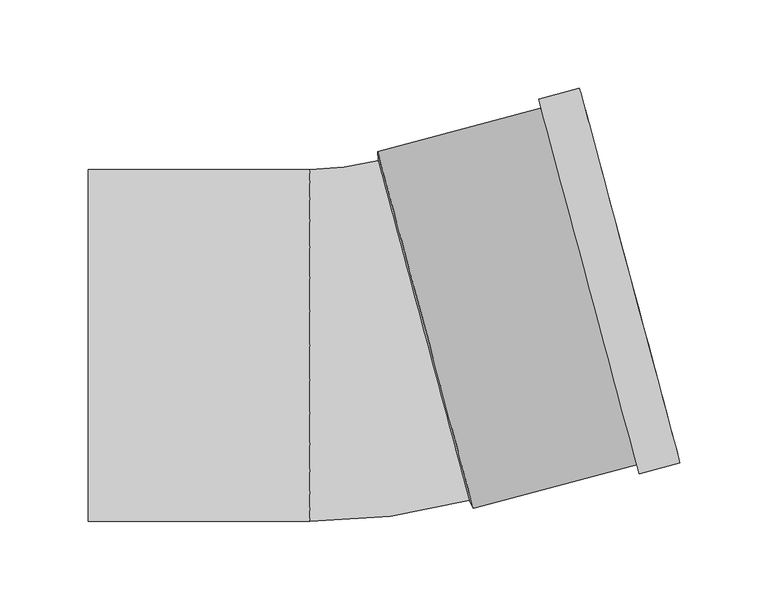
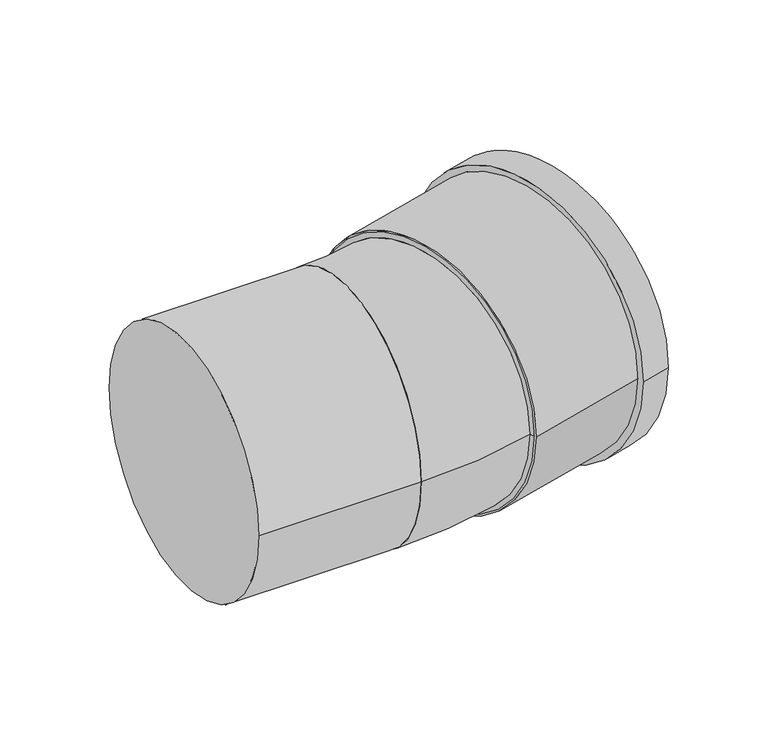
"""IFC4 building model written with IfcOpenShell, lengths in millimetres: pipe fitting geometry, Superdrain SKB Bend : Superdrain SKB Bend."""

import ifcopenshell
import ifcopenshell.guid

model = None  # the IFC model being written
_history = None  # IfcOwnerHistory: only IFC2X3 demands one
_inside = {}  # id of a spatial element -> (the spatial element, [elements in it])
_under = {}  # id of a project, library or spatial element -> (it, [spatial elements below it])
_declared = {}  # id of a project -> (the project, [libraries it declares])
_typed = {}  # id of a type object -> (the type object, [elements of that type])
_made_of = {}  # id of a material, layer set ... -> (it, [elements and type objects made of it])


def new_model(schema):
    """Start an empty IFC model of exactly this schema.

    Asked for "IFC4X3", IfcOpenShell would pick the latest addendum, in which some entities
    have other attributes; the version numbers below select the first issue.
    IFC2X3 requires an IfcOwnerHistory on every rooted entity: one is made here for all.
    """
    global model, _history
    if schema == "IFC4X3":
        model = ifcopenshell.file(schema_version=(4, 3, 0, 0))
    else:
        model = ifcopenshell.file(schema=schema)
    _inside.clear()
    _under.clear()
    _declared.clear()
    _typed.clear()
    _made_of.clear()
    _history = None
    if model.schema == "IFC2X3":
        org = make("IfcOrganization", Name="unknown")
        user = make(
            "IfcPersonAndOrganization",
            ThePerson=make("IfcPerson", FamilyName="unknown"),
            TheOrganization=org,
        )
        app = make(
            "IfcApplication",
            ApplicationDeveloper=org,
            Version="unknown",
            ApplicationFullName="unknown",
            ApplicationIdentifier="unknown",
        )
        _history = make(
            "IfcOwnerHistory",
            OwningUser=user,
            OwningApplication=app,
            ChangeAction="ADDED",
            CreationDate=0,
        )
    return model


def make(cls, **values):
    """One entity of the class cls with the attributes given. An attribute that is None is left unset."""
    return model.create_entity(
        cls, **{name: value for name, value in values.items() if value is not None}
    )


def rooted(cls, **values):
    """An entity with a GlobalId (a new one), such as an element, a storey or a relation."""
    return make(cls, GlobalId=ifcopenshell.guid.new(), OwnerHistory=_history, **values)


def si_unit(unit_type, name, prefix=None):
    """IfcSIUnit, for example si_unit("LENGTHUNIT", "METRE", prefix="MILLI")."""
    return make("IfcSIUnit", UnitType=unit_type, Prefix=prefix, Name=name)


def assignment(units):
    """IfcUnitAssignment: the units of a project."""
    return None if units is None else make("IfcUnitAssignment", Units=units)


def point(xyz):
    """IfcCartesianPoint."""
    return None if xyz is None else make("IfcCartesianPoint", Coordinates=xyz)


def direction(xyz):
    """IfcDirection."""
    return None if xyz is None else make("IfcDirection", DirectionRatios=xyz)


def frame(location, z_axis=None, x_axis=None):
    """IfcAxis2Placement3D, a coordinate frame: its origin and axes. An axis left out is left unset."""
    return make(
        "IfcAxis2Placement3D",
        Location=point(location),
        Axis=direction(z_axis),
        RefDirection=direction(x_axis),
    )


def frame_2d(location, x_axis=None):
    """IfcAxis2Placement2D, a coordinate frame in the plane: its origin and x axis."""
    return make(
        "IfcAxis2Placement2D", Location=point(location), RefDirection=direction(x_axis)
    )


def origin():
    """The frame at (0, 0, 0) with its axes left unset."""
    return frame((0.0, 0.0, 0.0))


def origin_2d():
    """The frame at (0, 0) in the plane with its x axis left unset."""
    return frame_2d((0.0, 0.0))


def place(relative_to, where):
    """IfcLocalPlacement: puts the frame where relative to a parent placement (None: the world)."""
    return make(
        "IfcLocalPlacement", PlacementRelTo=relative_to, RelativePlacement=where
    )


def context(
    kind, dimensions, precision=None, world=None, true_north=None, identifier=None
):
    """IfcGeometricRepresentationContext, for example the 3D "Model" context."""
    return make(
        "IfcGeometricRepresentationContext",
        ContextIdentifier=identifier,
        ContextType=kind,
        CoordinateSpaceDimension=dimensions,
        Precision=precision,
        WorldCoordinateSystem=world,
        TrueNorth=true_north,
    )


def project(units=None, contexts=None):
    """IfcProject with its units and contexts."""
    return rooted(
        "IfcProject",
        Name="project",
        RepresentationContexts=contexts,
        UnitsInContext=assignment(units),
    )


def spatial(cls, under=None, at=None, **own):
    """A site, building, storey or space (cls), placed at a placement, below another one or the project."""
    s = rooted(cls, ObjectPlacement=at, **own)
    if under is not None:
        _under.setdefault(under.id(), (under, []))[1].append(s)
    return s


def polyline(points):
    """IfcPolyline through the points."""
    return make("IfcPolyline", Points=[point(p) for p in points])


def circle_curve(where, radius):
    """IfcCircle in the frame where."""
    return make("IfcCircle", Position=where, Radius=radius)


def ellipse_curve(where, semi_axis1, semi_axis2):
    """IfcEllipse in the frame where."""
    return make(
        "IfcEllipse", Position=where, SemiAxis1=semi_axis1, SemiAxis2=semi_axis2
    )


def trimmed(basis, trim1, trim2, sense, master):
    """IfcTrimmedCurve: the piece of a basis curve between two trims."""
    return make(
        "IfcTrimmedCurve",
        BasisCurve=basis,
        Trim1=trim1,
        Trim2=trim2,
        SenseAgreement=sense,
        MasterRepresentation=master,
    )


def segment(curve, same_sense, transition):
    """IfcCompositeCurveSegment."""
    return make(
        "IfcCompositeCurveSegment",
        Transition=transition,
        SameSense=same_sense,
        ParentCurve=curve,
    )


def composite_curve(segments, self_intersect=None):
    """IfcCompositeCurve: segments joined end to end."""
    return make("IfcCompositeCurve", Segments=segments, SelfIntersect=self_intersect)


def outline(outer, holes=None, kind="AREA"):
    """IfcArbitraryClosedProfileDef: a profile drawn as a closed curve; with holes, ...WithVoids."""
    if holes is None:
        return make("IfcArbitraryClosedProfileDef", ProfileType=kind, OuterCurve=outer)
    return make(
        "IfcArbitraryProfileDefWithVoids",
        ProfileType=kind,
        OuterCurve=outer,
        InnerCurves=holes,
    )


def extrude(swept, where, along, depth):
    """IfcExtrudedAreaSolid: the profile swept, set in the frame where, extruded along a direction by depth."""
    return make(
        "IfcExtrudedAreaSolid",
        SweptArea=swept,
        Position=where,
        ExtrudedDirection=direction(along),
        Depth=depth,
    )


def shape(context_of_items, identifier, shape_type, items):
    """IfcShapeRepresentation: the items that make up one representation, for example the "Body"."""
    return make(
        "IfcShapeRepresentation",
        ContextOfItems=context_of_items,
        RepresentationIdentifier=identifier,
        RepresentationType=shape_type,
        Items=items,
    )


def source(mapping_origin, context_of_items, identifier, shape_type, items):
    """IfcRepresentationMap: a shape defined once, which mapped items show again and again."""
    return make(
        "IfcRepresentationMap",
        MappingOrigin=mapping_origin,
        MappedRepresentation=shape(context_of_items, identifier, shape_type, items),
    )


def transform(
    local_origin,
    x_axis=None,
    y_axis=None,
    z_axis=None,
    scale=None,
    scale2=None,
    scale3=None,
    uniform=True,
):
    """IfcCartesianTransformationOperator3D, or its non-uniform kind. x_axis, y_axis, z_axis: its Axis1, 2, 3."""
    if uniform:
        return make(
            "IfcCartesianTransformationOperator3D",
            Axis1=direction(x_axis),
            Axis2=direction(y_axis),
            LocalOrigin=point(local_origin),
            Scale=scale,
            Axis3=direction(z_axis),
        )
    return make(
        "IfcCartesianTransformationOperator3DnonUniform",
        Axis1=direction(x_axis),
        Axis2=direction(y_axis),
        LocalOrigin=point(local_origin),
        Scale=scale,
        Axis3=direction(z_axis),
        Scale2=scale2,
        Scale3=scale3,
    )


def mapped(mapping_source, mapping_target):
    """IfcMappedItem: shows the shape of a source again, moved by a transform."""
    return make(
        "IfcMappedItem", MappingSource=mapping_source, MappingTarget=mapping_target
    )


def made_of(thing, what):
    """Note that an element or type object is made of a material, layer set ...; save() writes the relation."""
    if what is not None:
        _made_of.setdefault(what.id(), (what, []))[1].append(thing)
    return thing


def element(
    cls,
    number,
    at=None,
    inside=None,
    cuts=None,
    type_object=None,
    material=None,
    context=None,
    identifier="Body",
    shape_type=None,
    held_by="IfcProductDefinitionShape",
    body=None,
    shapes=None,
    **own,
):
    """One element of the class cls, such as IfcWall. Its Tag is "e" and its number.

    at: its placement. inside: the storey or other place that contains it. cuts: it is an
    opening in that element (IfcRelVoidsElement). A single representation is given by context,
    identifier, shape_type and body (its items); several are given by shapes. held_by: the class
    of the entity that holds the representations. save() writes the other relations.
    """
    e = rooted(cls, Tag="e%d" % number, ObjectPlacement=at, **own)
    if body is not None:
        shapes = [shape(context, identifier, shape_type, body)]
    if shapes is not None:
        e.Representation = make(held_by, Representations=shapes)
    if inside is not None:
        _inside.setdefault(inside.id(), (inside, []))[1].append(e)
    if cuts is not None:
        rooted(
            "IfcRelVoidsElement", RelatingBuildingElement=cuts, RelatedOpeningElement=e
        )
    if type_object is not None:
        _typed.setdefault(type_object.id(), (type_object, []))[1].append(e)
    return made_of(e, material)


def aggregate(whole, parts):
    """IfcRelAggregates: a whole, such as a stair, and the parts it consists of."""
    return rooted("IfcRelAggregates", RelatingObject=whole, RelatedObjects=parts)


def save(model, path):
    """Write the relations noted so far, then the file.

    IfcRelAggregates (storeys below a building ...), IfcRelContainedInSpatialStructure (elements
    in a storey), IfcRelDefinesByType, IfcRelAssociatesMaterial and IfcRelDeclares: one each for
    every whole, place, type object, material and project.
    """
    for whole, parts in _under.values():
        aggregate(whole, parts)
    for where, things in _inside.values():
        rooted(
            "IfcRelContainedInSpatialStructure",
            RelatedElements=things,
            RelatingStructure=where,
        )
    for kind, things in _typed.values():
        rooted("IfcRelDefinesByType", RelatedObjects=things, RelatingType=kind)
    for what, things in _made_of.values():
        rooted("IfcRelAssociatesMaterial", RelatedObjects=things, RelatingMaterial=what)
    for by, libraries in _declared.values():
        rooted("IfcRelDeclares", RelatingContext=by, RelatedDefinitions=libraries)
    model.write(path)


def plane_surface(at):
    """IfcPlane: the flat surface through the origin of the frame at, square to its z axis."""
    return make("IfcPlane", Position=at)


def revolved_surface(curve, axis_point, axis_direction):
    """IfcSurfaceOfRevolution: the curve turned about the line through axis_point along axis_direction."""
    return make(
        "IfcSurfaceOfRevolution",
        SweptCurve=make("IfcArbitraryOpenProfileDef", ProfileType="CURVE", Curve=curve),
        AxisPosition=make("IfcAxis1Placement", Location=point(axis_point), Axis=direction(axis_direction)),
    )


def advanced_brep(points, edges, surfaces, faces):
    """IfcAdvancedBrep: a solid bounded by faces that lie on surfaces and meet in shared edges.

    An edge is (start, end): straight between two places in points (the first is 0);
    or (start, end, curve); or (start, end, curve, False) where it runs against its curve.
    A face is (place in surfaces, loops), or (place, loops, False) where it looks against
    its surface's normal. A loop lists edges by number (the first is 1), with a minus sign
    where the edge is run from its end to its start. The first loop is the outer one.
    """
    corners = [point(p) for p in points]
    vertices = [make("IfcVertexPoint", VertexGeometry=c) for c in corners]
    made = []
    for start, end, *more in edges:
        made.append(
            make(
                "IfcEdgeCurve",
                EdgeStart=vertices[start],
                EdgeEnd=vertices[end],
                EdgeGeometry=more[0] if more else make("IfcPolyline", Points=[corners[start], corners[end]]),
                SameSense=more[1] if len(more) > 1 else True,
            )
        )
    hull = []
    for where, loops, *sense in faces:
        bounds = []
        for j, loop in enumerate(loops):
            ring = [make("IfcOrientedEdge", EdgeElement=made[abs(k) - 1], Orientation=k > 0) for k in loop]
            bounds.append(
                make(
                    "IfcFaceOuterBound" if j == 0 else "IfcFaceBound",
                    Bound=make("IfcEdgeLoop", EdgeList=ring),
                    Orientation=True,
                )
            )
        hull.append(make("IfcAdvancedFace", Bounds=bounds, FaceSurface=surfaces[where], SameSense=sense[0] if sense else True))
    return make("IfcAdvancedBrep", Outer=make("IfcClosedShell", CfsFaces=hull))


def pipe_fitting_4eab0d71(model_context):
    return source(origin(), model_context, "Body", "SolidModel", [
        advanced_brep(
        [(57.7574568, -88.0515541, 0.0), (5.9936478, 105.1336111, 0.0), (-33.0, -100.0, 0.0), (-33.0, 100.0, 0.0)],
        [
            (0, 1, circle_curve(frame((31.8755523, 8.5410285, 0.0), z_axis=(0.965925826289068, 0.2588190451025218, 0.0), x_axis=(-0.2588190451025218, 0.965925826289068, 0.0)), 100.0)),
            (1, 0, circle_curve(frame((31.8755523, 8.5410285, 0.0), z_axis=(0.965925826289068, 0.2588190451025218, 0.0), x_axis=(-0.2588190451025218, 0.965925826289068, 0.0)), 100.0)),
            (2, 3, circle_curve(frame((-33.0, 0.0, 0.0), z_axis=(-1.0, 0.0, 0.0), x_axis=(0.0, 1.0, 0.0)), 100.0)),
            (3, 2, circle_curve(frame((-33.0, 0.0, 0.0), z_axis=(-1.0, 0.0, 0.0), x_axis=(0.0, 1.0, 0.0)), 100.0)),
            (3, 1, circle_curve(frame((-33.0, 250.6598857, 0.0), z_axis=(0.0, 0.0, 1.0), x_axis=(1.0, 0.0, 0.0)), 150.6598857)),
            (0, 2, circle_curve(frame((-33.0, 250.6598857, 0.0), z_axis=(0.0, 0.0, -1.0), x_axis=(1.0, 0.0, 0.0)), 350.6598857)),
        ],
        [
            plane_surface(frame((31.8755523, 8.5410285, 0.0), z_axis=(0.9659258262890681, 0.2588190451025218, 0.0), x_axis=(0.0, 0.0, -1.0))),
            plane_surface(frame((-33.0, 0.0, 0.0), z_axis=(-1.0, 0.0, 0.0), x_axis=(0.0, 0.0, -1.0))),
            revolved_surface(trimmed(ellipse_curve(frame((217.6598857, 250.6598857, 0.0), z_axis=(0.0, -1.0, 0.0), x_axis=(-1.0, 0.0, 0.0)), 100.0, 100.0), [point((117.6598857, 250.6598857, 0.0))], [point((317.6598857, 250.6598857, 0.0))], True, "CARTESIAN"), (-33.0, 250.6598857, 0.0), (0.0, 0.0, 1.0)),
            revolved_surface(trimmed(ellipse_curve(frame((217.6598857, 250.6598857, 0.0), z_axis=(0.0, -1.0, 0.0), x_axis=(-1.0, 0.0, 0.0)), 100.0, 100.0), [point((317.6598857, 250.6598857, 0.0))], [point((117.6598857, 250.6598857, 0.0))], True, "CARTESIAN"), (-33.0, 250.6598857, 0.0), (0.0, 0.0, 1.0)),
        ],
        [
            (0, [[1, 2]]),
            (1, [[3, 4]]),
            (2, [[-4, 5, -1, 6]]),
            (3, [[-3, -6, -2, -5]]),
        ],
    ),
        extrude(outline(composite_curve([segment(trimmed(circle_curve(origin_2d(), 105.0), [point((0.0, 104.9999999))], [point((0.0, -105.0))], False, "CARTESIAN"), True, "CONTINUOUS"), segment(trimmed(circle_curve(origin_2d(), 105.0), [point((0.0, -105.0))], [point((0.0, 104.9999999))], False, "CARTESIAN"), True, "CONTINUOUS")], self_intersect=False), holes=[composite_curve([segment(trimmed(circle_curve(origin_2d(), 100.0), [point((0.0, 100.0))], [point((0.0, -100.0000001))], True, "CARTESIAN"), True, "CONTINUOUS"), segment(trimmed(circle_curve(origin_2d(), 100.0), [point((0.0, -100.0000001))], [point((0.0, 100.0))], True, "CARTESIAN"), True, "CONTINUOUS")], self_intersect=False)]), frame((32.8414781, 8.7998475, 0.0), z_axis=(0.9659258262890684, 0.2588190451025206, 0.0), x_axis=(0.0, 0.0, 1.0)), (0.0, 0.0, 1.0), 120.0),
        extrude(outline(composite_curve([segment(trimmed(circle_curve(origin_2d(), 110.25), [point((0.0, -110.2499999))], [point((0.0, 110.25))], False, "CARTESIAN"), True, "CONTINUOUS"), segment(trimmed(circle_curve(origin_2d(), 110.25), [point((0.0, 110.25))], [point((0.0, -110.2499999))], False, "CARTESIAN"), True, "CONTINUOUS")], self_intersect=False), holes=[composite_curve([segment(trimmed(circle_curve(origin_2d(), 100.0), [point((0.0, -100.0))], [point((0.0, 100.0000001))], True, "CARTESIAN"), True, "CONTINUOUS"), segment(trimmed(circle_curve(origin_2d(), 100.0), [point((0.0, 100.0000001))], [point((0.0, -100.0))], True, "CARTESIAN"), True, "CONTINUOUS")], self_intersect=False)]), frame((125.5703574, 33.6464759, 0.0), z_axis=(0.9659258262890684, 0.2588190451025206, 0.0), x_axis=(0.0, 0.0, 1.0)), (0.0, 0.0, 1.0), 24.0),
        advanced_brep(
        [(60.0174778, -92.6223642, 0.0), (5.6654784, 110.2220593, 0.0), (57.7574568, -88.0515541, 0.0), (5.9936478, 105.1336111, 0.0)],
        [
            (0, 1, circle_curve(frame((32.8414781, 8.7998475, 0.0), z_axis=(0.9659258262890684, 0.2588190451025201, 0.0), x_axis=(0.25881904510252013, -0.9659258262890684, 0.0)), 105.0)),
            (1, 0, circle_curve(frame((32.8414781, 8.7998475, 0.0), z_axis=(0.9659258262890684, 0.2588190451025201, 0.0), x_axis=(-0.2588190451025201, 0.9659258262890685, 0.0)), 105.0)),
            (2, 3, circle_curve(frame((31.8755523, 8.5410285, 0.0), z_axis=(-0.9659258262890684, -0.2588190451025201, 0.0), x_axis=(-0.2588190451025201, 0.9659258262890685, 0.0)), 100.0)),
            (3, 2, circle_curve(frame((31.8755523, 8.5410285, 0.0), z_axis=(-0.9659258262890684, -0.2588190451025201, 0.0), x_axis=(0.25881904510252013, -0.9659258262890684, 0.0)), 100.0)),
            (3, 1),
            (0, 2),
        ],
        [
            plane_surface(frame((32.8414781, 8.7998475, 0.0), z_axis=(0.965925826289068, 0.25881904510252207, 0.0), x_axis=(0.0, 0.0, -1.0))),
            plane_surface(frame((31.8755523, 8.5410285, 0.0), z_axis=(-0.965925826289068, -0.25881904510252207, 0.0), x_axis=(0.0, 0.0, -1.0))),
            revolved_surface(polyline([(5.993647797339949, 105.13361109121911, 0.0), (5.6654784, 110.2220593, 0.0)]), (12.5570357, 3.3646476, 0.0), (0.9659258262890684, 0.2588190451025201, 0.0)),
            revolved_surface(polyline([(57.757456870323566, -88.05155436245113, 0.0), (60.01747794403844, -92.6223644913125, 0.0)]), (12.5570357, 3.3646476, 0.0), (0.9659258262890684, 0.2588190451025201, 0.0)),
        ],
        [
            (0, [[1, 2]]),
            (1, [[3, 4]]),
            (2, [[-4, 5, -1, 6]]),
            (3, [[-3, -6, -2, -5]]),
        ],
    ),
        extrude(outline(composite_curve([segment(trimmed(circle_curve(origin_2d(), 100.0), [point((-100.0, 0.0))], [point((100.0, 0.0))], False, "CARTESIAN"), True, "CONTINUOUS"), segment(trimmed(circle_curve(origin_2d(), 100.0), [point((100.0, 0.0))], [point((-100.0, 0.0))], False, "CARTESIAN"), True, "CONTINUOUS")], self_intersect=False)), frame((-158.8, 0.0, 0.0), z_axis=(1.0, 0.0, 0.0), x_axis=(0.0, 1.0, 0.0)), (0.0, 0.0, 1.0), 125.8),
    ])


if __name__ == "__main__":
    model = new_model("IFC4")
    model_context = context("Model", 3, world=origin())
    ifc_project = project(units=[si_unit("LENGTHUNIT", "METRE", prefix="MILLI")], contexts=[model_context])
    site = spatial("IfcSite", under=ifc_project)
    building = spatial("IfcBuilding", under=site)
    placement = place(None, origin())
    pipe_fitting_shape = pipe_fitting_4eab0d71(model_context)
    element("IfcPipeFitting", 1, ObjectType="Superdrain SKB Bend : Superdrain SKB Bend", at=placement, inside=building, context=model_context, shape_type="MappedRepresentation", body=[
        mapped(pipe_fitting_shape, transform((0.0, 0.0, 0.0), x_axis=(1.0, 0.0, 0.0), y_axis=(0.0, 1.0, 0.0), z_axis=(0.0, 0.0, 1.0))),
    ])
    save(model, "model.ifc")
